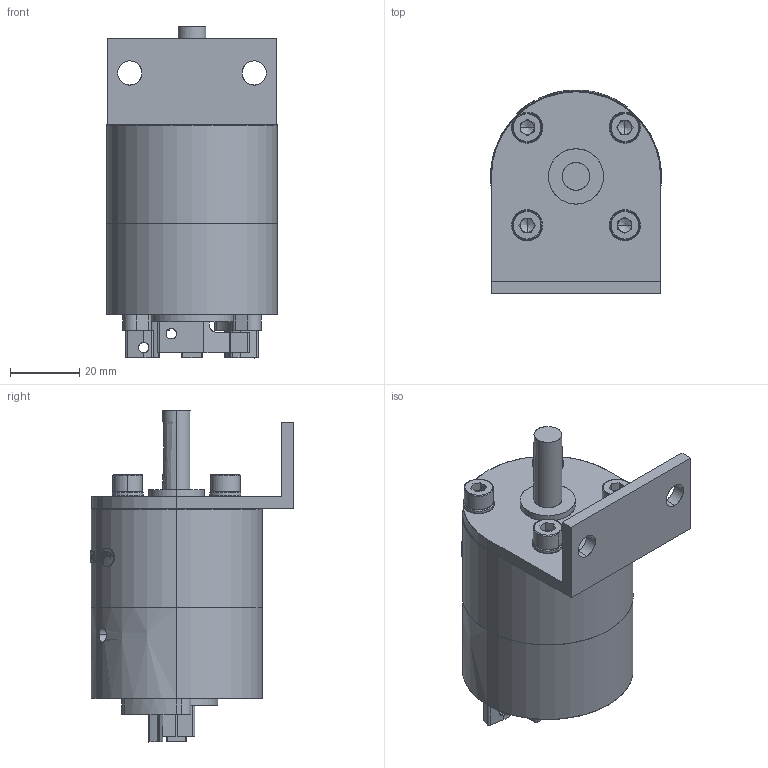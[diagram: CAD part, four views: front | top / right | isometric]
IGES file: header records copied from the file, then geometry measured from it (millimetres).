
Start section: SolidWorks IGES file using analytic representation for surfaces
Global section: file name: C:\Users\Chieh_Lu\Dropbox\¤u§@«Ç\PRO\PROA20S\PROA20S-#-#\PROA20S-#-#-L1.IGS; native system: SolidWorks 2014; preprocessor: SolidWorks 2014; author: Chieh_Lu; date: 150731.014307; units: millimetre
Bounding box: 49.5 x 59.03 x 96.1 mm (x, y, z)
Surface area: 37186.4 mm2 (no closed solid volume)
Topology: 0 solids, 0 shells, 531 faces, 7509 edges, 7481 vertices
Faces by surface type: bspline 278, revolution 253
